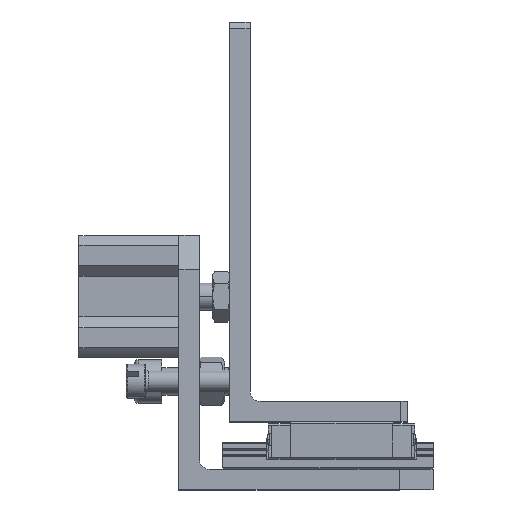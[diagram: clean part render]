
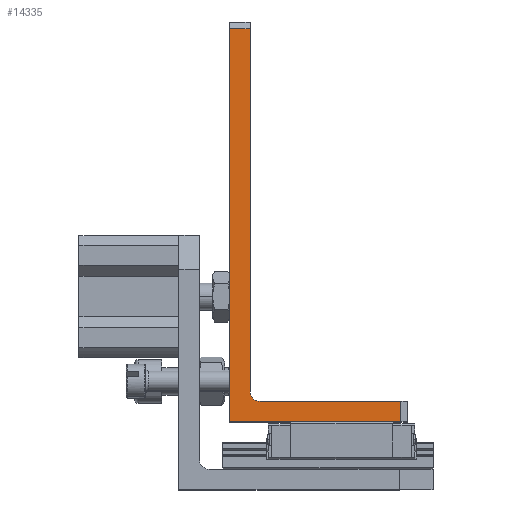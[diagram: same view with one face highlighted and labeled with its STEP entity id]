
A CAD part, top view. The second image highlights one B-rep face of the part: STEP entity #14335.
In plain terms, the highlighted planar face has unit normal (0, 0, 1).
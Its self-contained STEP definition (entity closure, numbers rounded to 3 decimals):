
#173 = VERTEX_POINT ( 'NONE', #30114 ) ;
#500 = CARTESIAN_POINT ( 'NONE',  ( -50.164, -31.524, 28. ) ) ;
#1075 = CARTESIAN_POINT ( 'NONE',  ( -50.164, 22.976, 28. ) ) ;
#1128 = VERTEX_POINT ( 'NONE', #2395 ) ;
#1397 = EDGE_LOOP ( 'NONE', ( #9049, #33778, #27339, #29560, #3959, #7126, #5216 ) ) ;
#2263 = DIRECTION ( 'NONE',  ( -1., 0., 0. ) ) ;
#2296 = DIRECTION ( 'NONE',  ( 1., 0., 0. ) ) ;
#2298 = VECTOR ( 'NONE', #18343, 1000. ) ;
#2395 = CARTESIAN_POINT ( 'NONE',  ( -5.664, -40.524, 28. ) ) ;
#2437 = DIRECTION ( 'NONE',  ( 1., 0., 0. ) ) ;
#3132 = VERTEX_POINT ( 'NONE', #3569 ) ;
#3207 = VECTOR ( 'NONE', #13795, 1000. ) ;
#3439 = EDGE_CURVE ( 'NONE', #3132, #1128, #16293, .T. ) ;
#3569 = CARTESIAN_POINT ( 'NONE',  ( -56.164, -40.524, 28. ) ) ;
#3953 = EDGE_CURVE ( 'NONE', #1128, #12008, #26211, .T. ) ;
#3959 = ORIENTED_EDGE ( 'NONE', *, *, #21155, .T. ) ;
#4354 = VECTOR ( 'NONE', #2263, 1000. ) ;
#5216 = ORIENTED_EDGE ( 'NONE', *, *, #28568, .T. ) ;
#6662 = VERTEX_POINT ( 'NONE', #13760 ) ;
#7051 = CARTESIAN_POINT ( 'NONE',  ( -56.164, 18.476, 28. ) ) ;
#7126 = ORIENTED_EDGE ( 'NONE', *, *, #29927, .T. ) ;
#8112 = DIRECTION ( 'NONE',  ( 0., 0., -1. ) ) ;
#9049 = ORIENTED_EDGE ( 'NONE', *, *, #20320, .T. ) ;
#11189 = LINE ( 'NONE', #7051, #17664 ) ;
#12008 = VERTEX_POINT ( 'NONE', #13636 ) ;
#12637 = DIRECTION ( 'NONE',  ( 0., -1., 0. ) ) ;
#12656 = CIRCLE ( 'NONE', #17125, 3. ) ;
#13636 = CARTESIAN_POINT ( 'NONE',  ( -5.664, -34.524, 28. ) ) ;
#13760 = CARTESIAN_POINT ( 'NONE',  ( -56.164, 75.476, 28. ) ) ;
#13795 = DIRECTION ( 'NONE',  ( 0., 1., 0. ) ) ;
#14335 = ADVANCED_FACE ( 'NONE', ( #18177 ), #32610, .T. ) ;
#14496 = AXIS2_PLACEMENT_3D ( 'NONE', #35486, #18885, #2296 ) ;
#15570 = CARTESIAN_POINT ( 'NONE',  ( -30.914, 75.476, 28. ) ) ;
#16090 = CARTESIAN_POINT ( 'NONE',  ( -30.914, -34.524, 28. ) ) ;
#16293 = LINE ( 'NONE', #21812, #22786 ) ;
#17125 = AXIS2_PLACEMENT_3D ( 'NONE', #24699, #8112, #27493 ) ;
#17227 = CARTESIAN_POINT ( 'NONE',  ( -50.164, 75.476, 28. ) ) ;
#17664 = VECTOR ( 'NONE', #12637, 1000. ) ;
#18177 = FACE_OUTER_BOUND ( 'NONE', #1397, .T. ) ;
#18343 = DIRECTION ( 'NONE',  ( -1., 0., 0. ) ) ;
#18885 = DIRECTION ( 'NONE',  ( 0., 0., 1. ) ) ;
#19221 = CARTESIAN_POINT ( 'NONE',  ( -5.664, 17.476, 28. ) ) ;
#20320 = EDGE_CURVE ( 'NONE', #20661, #6662, #24422, .T. ) ;
#20659 = VECTOR ( 'NONE', #23265, 1000. ) ;
#20661 = VERTEX_POINT ( 'NONE', #17227 ) ;
#21155 = EDGE_CURVE ( 'NONE', #12008, #173, #26483, .T. ) ;
#21812 = CARTESIAN_POINT ( 'NONE',  ( -29.914, -40.524, 28. ) ) ;
#22786 = VECTOR ( 'NONE', #2437, 1000. ) ;
#23265 = DIRECTION ( 'NONE',  ( 0., 1., 0. ) ) ;
#24422 = LINE ( 'NONE', #15570, #2298 ) ;
#24699 = CARTESIAN_POINT ( 'NONE',  ( -47.164, -31.524, 28. ) ) ;
#24753 = VERTEX_POINT ( 'NONE', #500 ) ;
#26211 = LINE ( 'NONE', #19221, #3207 ) ;
#26483 = LINE ( 'NONE', #16090, #4354 ) ;
#27339 = ORIENTED_EDGE ( 'NONE', *, *, #3439, .T. ) ;
#27493 = DIRECTION ( 'NONE',  ( 1., 0., 0. ) ) ;
#28568 = EDGE_CURVE ( 'NONE', #24753, #20661, #35405, .T. ) ;
#29560 = ORIENTED_EDGE ( 'NONE', *, *, #3953, .T. ) ;
#29927 = EDGE_CURVE ( 'NONE', #173, #24753, #12656, .T. ) ;
#30114 = CARTESIAN_POINT ( 'NONE',  ( -47.164, -34.524, 28. ) ) ;
#30981 = EDGE_CURVE ( 'NONE', #6662, #3132, #11189, .T. ) ;
#32610 = PLANE ( 'NONE',  #14496 ) ;
#33778 = ORIENTED_EDGE ( 'NONE', *, *, #30981, .T. ) ;
#35405 = LINE ( 'NONE', #1075, #20659 ) ;
#35486 = CARTESIAN_POINT ( 'NONE',  ( -56.164, -40.524, 28. ) ) ;
